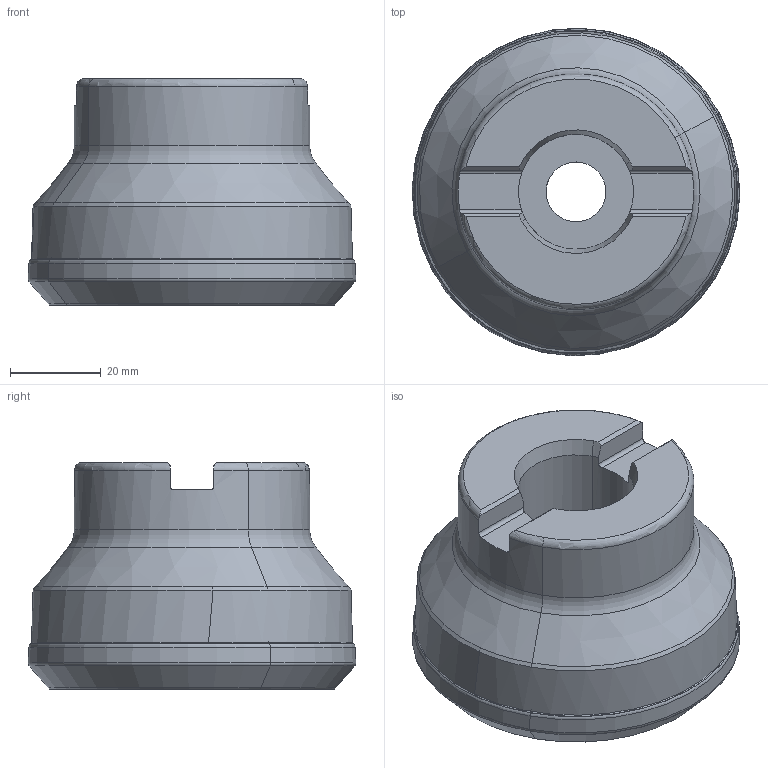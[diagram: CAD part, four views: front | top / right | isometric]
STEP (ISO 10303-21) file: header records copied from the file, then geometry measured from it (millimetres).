
FILE_DESCRIPTION(('CATIA V5 STEP','CAx-IF Rec.Pracs.--- Model Styling and Organization---1.2---2011-12-15'),'2;1');
FILE_NAME('N:\data\isr\design\special1\users\NATALY_B\Tal\NPA\3106854\IQ845 FSYD063-07-25.4-R07-L.stp','2016-06-06T07:18:45+00:00',('none'),('none'),'CATIA Version 5 Release 21 SP 5 (IN-10)','CATIA V5 STEP AP214','none');
FILE_SCHEMA(('AUTOMOTIVE_DESIGN { 1 0 10303 214 1 1 1 1 }'));
Length unit declared in the file: millimetre
Products named in the file (1): IQ845 FSYD063-07-25.4-R07
Bounding box: 72.32 x 72.32 x 50 mm (x, y, z)
Volume: 145069.4 mm3; surface area: 26868.1 mm2
Topology: 2 solids, 2 shells, 113 faces, 278 edges, 169 vertices
Faces by surface type: revolution 64, plane 15, cylinder 12, torus 12, cone 10
Entity records: 3967 total; most frequent: CARTESIAN_POINT 1623, ORIENTED_EDGE 508, DIRECTION 296, EDGE_CURVE 254, B_SPLINE_CURVE_WITH_KNOTS 174, AXIS2_PLACEMENT_3D 155, VERTEX_POINT 144, CIRCLE 122
